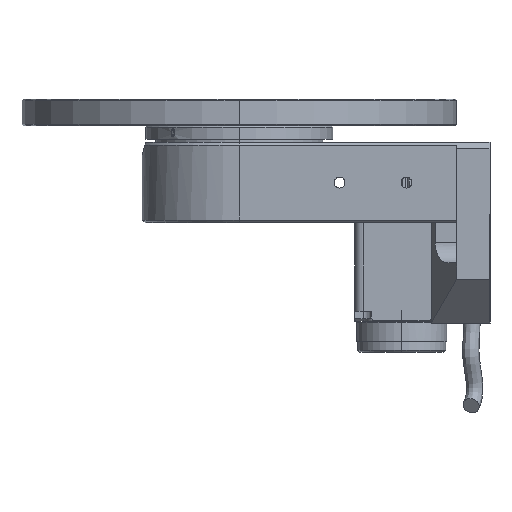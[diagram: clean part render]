
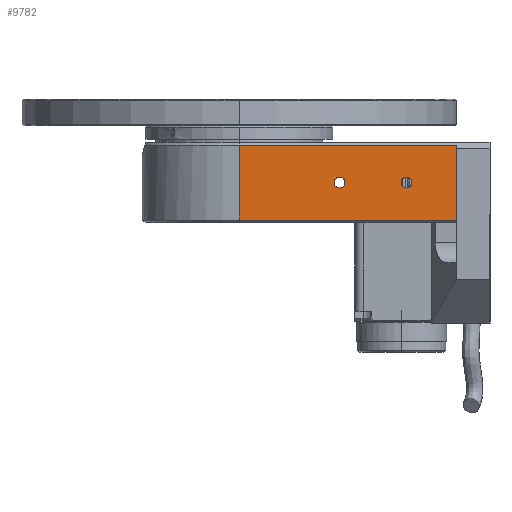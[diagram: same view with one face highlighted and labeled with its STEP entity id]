
A CAD part, left-side view. The second image highlights one B-rep face of the part: STEP entity #9782.
In plain terms, the highlighted planar face has unit normal (-1, 0, 0).
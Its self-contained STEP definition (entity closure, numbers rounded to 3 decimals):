
#2595 = CARTESIAN_POINT ( 'NONE',  ( -41.012, -37.947, 12. ) ) ;
#2743 = CARTESIAN_POINT ( 'NONE',  ( -41.012, -61.189, 12. ) ) ;
#2744 = DIRECTION ( 'NONE',  ( 0., -1., 0. ) ) ;
#2745 = DIRECTION ( 'NONE',  ( 1., 0., 0. ) ) ;
#2746 = CARTESIAN_POINT ( 'NONE',  ( -41.012, -59.568, 12. ) ) ;
#2747 = AXIS2_PLACEMENT_3D ( 'NONE', #2746, #2745, #2744 ) ;
#2748 = CIRCLE ( 'NONE', #2747, 1.621 ) ;
#2749 = CARTESIAN_POINT ( 'NONE',  ( -41.012, -57.947, 12. ) ) ;
#2768 = CARTESIAN_POINT ( 'NONE',  ( -41.012, -41.189, 12. ) ) ;
#2769 = DIRECTION ( 'NONE',  ( 0., -1., 0. ) ) ;
#2770 = DIRECTION ( 'NONE',  ( 1., 0., 0. ) ) ;
#2771 = CARTESIAN_POINT ( 'NONE',  ( -41.012, -39.568, 12. ) ) ;
#2772 = AXIS2_PLACEMENT_3D ( 'NONE', #2771, #2770, #2769 ) ;
#2773 = CIRCLE ( 'NONE', #2772, 1.621 ) ;
#7642 = VERTEX_POINT ( 'NONE', #2595 ) ;
#7704 = VERTEX_POINT ( 'NONE', #2749 ) ;
#7706 = EDGE_CURVE ( 'NONE', #7707, #7704, #2748, .T. ) ;
#7707 = VERTEX_POINT ( 'NONE', #2743 ) ;
#7718 = EDGE_CURVE ( 'NONE', #7719, #7642, #2773, .T. ) ;
#7719 = VERTEX_POINT ( 'NONE', #2768 ) ;
#9258 = EDGE_CURVE ( 'NONE', #7704, #7707, #13900, .T. ) ;
#9267 = VERTEX_POINT ( 'NONE', #13882 ) ;
#9324 = EDGE_CURVE ( 'NONE', #7642, #7719, #13985, .T. ) ;
#9459 = VERTEX_POINT ( 'NONE', #14195 ) ;
#9469 = EDGE_CURVE ( 'NONE', #9267, #9459, #14237, .T. ) ;
#9530 = EDGE_CURVE ( 'NONE', #9459, #9610, #14581, .T. ) ;
#9610 = VERTEX_POINT ( 'NONE', #14979 ) ;
#9738 = VERTEX_POINT ( 'NONE', #15187 ) ;
#9740 = ORIENTED_EDGE ( 'NONE', *, *, #9324, .T. ) ;
#9741 = EDGE_LOOP ( 'NONE', ( #9742, #9743 ) ) ;
#9742 = ORIENTED_EDGE ( 'NONE', *, *, #7706, .T. ) ;
#9743 = ORIENTED_EDGE ( 'NONE', *, *, #9258, .T. ) ;
#9776 = EDGE_CURVE ( 'NONE', #9738, #9267, #15252, .T. ) ;
#9782 = ADVANCED_FACE ( 'NONE', ( #15248, #15247, #15246 ), #15300, .T. ) ;
#9783 = ORIENTED_EDGE ( 'NONE', *, *, #9469, .T. ) ;
#9784 = ORIENTED_EDGE ( 'NONE', *, *, #9530, .T. ) ;
#9788 = ORIENTED_EDGE ( 'NONE', *, *, #9789, .F. ) ;
#9789 = EDGE_CURVE ( 'NONE', #9738, #9610, #15290, .T. ) ;
#9790 = ORIENTED_EDGE ( 'NONE', *, *, #9776, .T. ) ;
#9791 = EDGE_LOOP ( 'NONE', ( #9792, #9740 ) ) ;
#9792 = ORIENTED_EDGE ( 'NONE', *, *, #7718, .T. ) ;
#9797 = EDGE_LOOP ( 'NONE', ( #9783, #9784, #9788, #9790 ) ) ;
#13882 = CARTESIAN_POINT ( 'NONE',  ( -41.012, -9.568, 0.8 ) ) ;
#13896 = DIRECTION ( 'NONE',  ( 0., -1., 0. ) ) ;
#13897 = DIRECTION ( 'NONE',  ( 1., 0., 0. ) ) ;
#13898 = CARTESIAN_POINT ( 'NONE',  ( -41.012, -59.568, 12. ) ) ;
#13899 = AXIS2_PLACEMENT_3D ( 'NONE', #13898, #13897, #13896 ) ;
#13900 = CIRCLE ( 'NONE', #13899, 1.621 ) ;
#13977 = DIRECTION ( 'NONE',  ( 0., -1., 0. ) ) ;
#13978 = DIRECTION ( 'NONE',  ( 1., 0., 0. ) ) ;
#13979 = CARTESIAN_POINT ( 'NONE',  ( -41.012, -39.568, 12. ) ) ;
#13980 = AXIS2_PLACEMENT_3D ( 'NONE', #13979, #13978, #13977 ) ;
#13985 = CIRCLE ( 'NONE', #13980, 1.621 ) ;
#14195 = CARTESIAN_POINT ( 'NONE',  ( -41.012, -74.568, 0.8 ) ) ;
#14234 = DIRECTION ( 'NONE',  ( 0., -1., 0. ) ) ;
#14235 = VECTOR ( 'NONE', #14234, 1000. ) ;
#14236 = CARTESIAN_POINT ( 'NONE',  ( -41.012, -74.568, 0.8 ) ) ;
#14237 = LINE ( 'NONE', #14236, #14235 ) ;
#14578 = DIRECTION ( 'NONE',  ( 0., 0., 1. ) ) ;
#14579 = VECTOR ( 'NONE', #14578, 1000. ) ;
#14580 = CARTESIAN_POINT ( 'NONE',  ( -41.012, -74.568, 0. ) ) ;
#14581 = LINE ( 'NONE', #14580, #14579 ) ;
#14979 = CARTESIAN_POINT ( 'NONE',  ( -41.012, -74.568, 23.2 ) ) ;
#15187 = CARTESIAN_POINT ( 'NONE',  ( -41.012, -9.568, 23.2 ) ) ;
#15246 = FACE_BOUND ( 'NONE', #9741, .T. ) ;
#15247 = FACE_BOUND ( 'NONE', #9791, .T. ) ;
#15248 = FACE_OUTER_BOUND ( 'NONE', #9797, .T. ) ;
#15249 = DIRECTION ( 'NONE',  ( 0., 0., -1. ) ) ;
#15250 = VECTOR ( 'NONE', #15249, 1000. ) ;
#15251 = CARTESIAN_POINT ( 'NONE',  ( -41.012, -9.568, 0. ) ) ;
#15252 = LINE ( 'NONE', #15251, #15250 ) ;
#15287 = DIRECTION ( 'NONE',  ( 0., -1., 0. ) ) ;
#15288 = VECTOR ( 'NONE', #15287, 1000. ) ;
#15289 = CARTESIAN_POINT ( 'NONE',  ( -41.012, -80.722, 23.2 ) ) ;
#15290 = LINE ( 'NONE', #15289, #15288 ) ;
#15296 = DIRECTION ( 'NONE',  ( 0., -1., 0. ) ) ;
#15297 = DIRECTION ( 'NONE',  ( -1., 0., 0. ) ) ;
#15298 = CARTESIAN_POINT ( 'NONE',  ( -41.012, -74.568, 0. ) ) ;
#15299 = AXIS2_PLACEMENT_3D ( 'NONE', #15298, #15297, #15296 ) ;
#15300 = PLANE ( 'NONE',  #15299 ) ;
